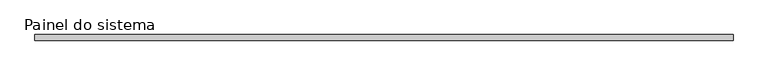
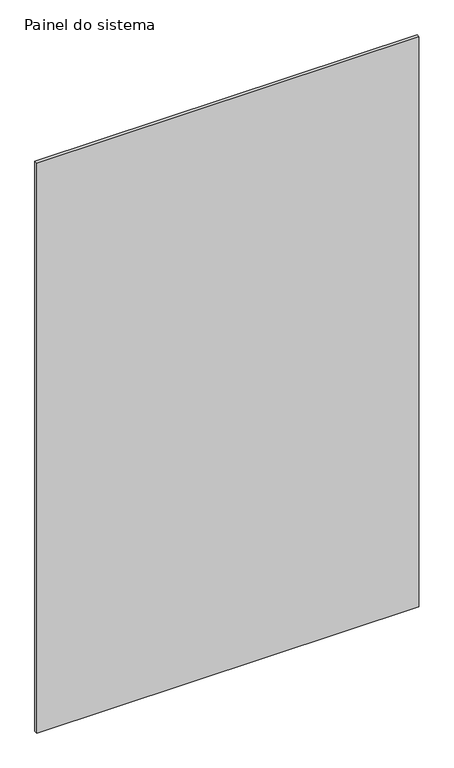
"""IFC4 building model written with IfcOpenShell, lengths in millimetres: plate geometry, Painel do sistema : Gradil Alambrado."""

from ifc_helpers import new_model, si_unit, origin, origin_with_axes, place, context, project, spatial, polyline, outline, extrude, source, transform, mapped, element, save


def painel_do_sistema_adb62336(model_context):
    return source(origin(), model_context, "Body", "SweptSolid", [
        extrude(outline(polyline([(1440.0000002, -12.5), (-1440.0000002, -12.5), (-1440.0000002, 12.5), (1440.0000002, 12.5), (1440.0000002, -12.5)])), origin_with_axes(), (0.0, 0.0, 1.0), 4540.0),
    ])


if __name__ == "__main__":
    model = new_model("IFC4")
    model_context = context("Model", 3, world=origin())
    ifc_project = project(units=[si_unit("LENGTHUNIT", "METRE", prefix="MILLI")], contexts=[model_context])
    site = spatial("IfcSite", under=ifc_project)
    building = spatial("IfcBuilding", under=site)
    placement = place(None, origin())
    painel_do_sistema_shape = painel_do_sistema_adb62336(model_context)
    element("IfcPlate", 1, ObjectType="Painel do sistema : Gradil Alambrado", at=placement, inside=building, context=model_context, shape_type="MappedRepresentation", body=[
        mapped(painel_do_sistema_shape, transform((0.0, 0.0, 0.0), x_axis=(1.0, 0.0, 0.0), y_axis=(0.0, 1.0, 0.0), z_axis=(0.0, 0.0, 1.0))),
    ])
    save(model, "model.ifc")
